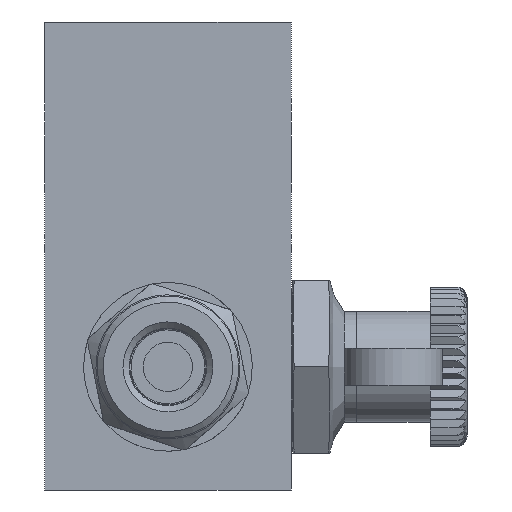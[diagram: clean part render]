
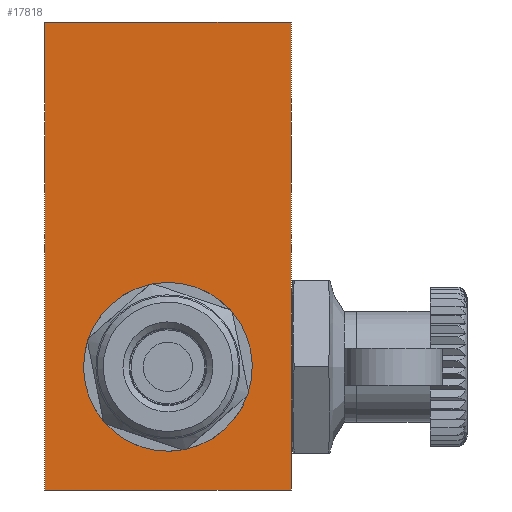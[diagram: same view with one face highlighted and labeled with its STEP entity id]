
A CAD part, front view. The second image highlights one B-rep face of the part: STEP entity #17818.
In plain terms, the highlighted planar face has unit normal (0, -1, 0).
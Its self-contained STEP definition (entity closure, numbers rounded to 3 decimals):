
#126 = B_SPLINE_CURVE_WITH_KNOTS ( 'NONE', 3,
 ( #16371, #21522, #16475, #9838, #11198, #18371, #9393, #18047, #6151, #13014, #2663, #4463 ),
 .UNSPECIFIED., .F., .F.,
 ( 4, 2, 2, 2, 2, 4 ),
 ( 0., 0.002, 0.003, 0.004, 0.006, 0.008 ),
 .UNSPECIFIED. ) ;
#374 = CARTESIAN_POINT ( 'NONE',  ( 5.573, 0., -11.365 ) ) ;
#565 = EDGE_CURVE ( 'NONE', #6112, #13206, #10910, .T. ) ;
#820 = VERTEX_POINT ( 'NONE', #2497 ) ;
#1317 = EDGE_LOOP ( 'NONE', ( #7839, #14884, #8032, #6328 ) ) ;
#1458 = EDGE_LOOP ( 'NONE', ( #16332, #17870, #13318, #9799 ) ) ;
#1677 = CARTESIAN_POINT ( 'NONE',  ( 10., 0., -9. ) ) ;
#1744 = EDGE_CURVE ( 'NONE', #13206, #15249, #15839, .T. ) ;
#2297 = CARTESIAN_POINT ( 'NONE',  ( 5.709, 0., -11.567 ) ) ;
#2497 = CARTESIAN_POINT ( 'NONE',  ( 0., 0., -19. ) ) ;
#2663 = CARTESIAN_POINT ( 'NONE',  ( 7.459, 0., -4.596 ) ) ;
#3714 = AXIS2_PLACEMENT_3D ( 'NONE', #1677, #8519, #20315 ) ;
#4373 = FACE_OUTER_BOUND ( 'NONE', #1458, .T. ) ;
#4463 = CARTESIAN_POINT ( 'NONE',  ( 8.071, 0., -4.342 ) ) ;
#4797 = CARTESIAN_POINT ( 'NONE',  ( 8.304, 0., -4.261 ) ) ;
#5219 = B_SPLINE_CURVE_WITH_KNOTS ( 'NONE', 3,
 ( #18818, #4797, #8161, #16914 ),
 .UNSPECIFIED., .F., .F.,
 ( 4, 4 ),
 ( 0., 0.001 ),
 .UNSPECIFIED. ) ;
#5285 = VERTEX_POINT ( 'NONE', #20772 ) ;
#6112 = VERTEX_POINT ( 'NONE', #7795 ) ;
#6151 = CARTESIAN_POINT ( 'NONE',  ( 5.967, 0., -5.905 ) ) ;
#6182 = EDGE_CURVE ( 'NONE', #5285, #17744, #16775, .T. ) ;
#6328 = ORIENTED_EDGE ( 'NONE', *, *, #1744, .T. ) ;
#7207 = CARTESIAN_POINT ( 'NONE',  ( 5.449, 0., -11.151 ) ) ;
#7208 = AXIS2_PLACEMENT_3D ( 'NONE', #13037, #14839, #11224 ) ;
#7795 = CARTESIAN_POINT ( 'NONE',  ( 8.781, 0., -4.151 ) ) ;
#7839 = ORIENTED_EDGE ( 'NONE', *, *, #20442, .T. ) ;
#8032 = ORIENTED_EDGE ( 'NONE', *, *, #565, .T. ) ;
#8161 = CARTESIAN_POINT ( 'NONE',  ( 8.541, 0., -4.197 ) ) ;
#8519 = DIRECTION ( 'NONE',  ( 0., 1., 0. ) ) ;
#8603 = VERTEX_POINT ( 'NONE', #17598 ) ;
#9062 = EDGE_CURVE ( 'NONE', #8603, #6112, #5219, .T. ) ;
#9393 = CARTESIAN_POINT ( 'NONE',  ( 5.214, 0., -7.382 ) ) ;
#9579 = CARTESIAN_POINT ( 'NONE',  ( 20., 0., 19. ) ) ;
#9632 = PLANE ( 'NONE',  #7208 ) ;
#9783 = LINE ( 'NONE', #21915, #19463 ) ;
#9799 = ORIENTED_EDGE ( 'NONE', *, *, #17861, .T. ) ;
#9838 = CARTESIAN_POINT ( 'NONE',  ( 4.959, 0., -8.666 ) ) ;
#10563 = CARTESIAN_POINT ( 'NONE',  ( 5.342, 0., -10.929 ) ) ;
#10694 = VERTEX_POINT ( 'NONE', #17263 ) ;
#10910 = CIRCLE ( 'NONE', #3714, 5. ) ;
#11198 = CARTESIAN_POINT ( 'NONE',  ( 4.992, 0., -8.337 ) ) ;
#11224 = DIRECTION ( 'NONE',  ( -1., 0., 0. ) ) ;
#11286 = DIRECTION ( 'NONE',  ( 0., 0., -1. ) ) ;
#11710 = EDGE_CURVE ( 'NONE', #10694, #5285, #21858, .T. ) ;
#12127 = VECTOR ( 'NONE', #11286, 1000. ) ;
#12602 = VECTOR ( 'NONE', #20284, 1000. ) ;
#12603 = VECTOR ( 'NONE', #21440, 1000. ) ;
#13014 = CARTESIAN_POINT ( 'NONE',  ( 6.899, 0., -4.971 ) ) ;
#13037 = CARTESIAN_POINT ( 'NONE',  ( 20., 0., 19. ) ) ;
#13206 = VERTEX_POINT ( 'NONE', #2297 ) ;
#13318 = ORIENTED_EDGE ( 'NONE', *, *, #11710, .F. ) ;
#14089 = CARTESIAN_POINT ( 'NONE',  ( 5.342, 0., -10.929 ) ) ;
#14839 = DIRECTION ( 'NONE',  ( 0., 1., 0. ) ) ;
#14884 = ORIENTED_EDGE ( 'NONE', *, *, #9062, .T. ) ;
#15138 = CARTESIAN_POINT ( 'NONE',  ( 20., 0., 19. ) ) ;
#15249 = VERTEX_POINT ( 'NONE', #10563 ) ;
#15487 = EDGE_CURVE ( 'NONE', #820, #17744, #9783, .T. ) ;
#15839 = B_SPLINE_CURVE_WITH_KNOTS ( 'NONE', 3,
 ( #19116, #374, #7207, #14089 ),
 .UNSPECIFIED., .F., .F.,
 ( 4, 4 ),
 ( 0.009, 0.009 ),
 .UNSPECIFIED. ) ;
#16332 = ORIENTED_EDGE ( 'NONE', *, *, #15487, .T. ) ;
#16371 = CARTESIAN_POINT ( 'NONE',  ( 5.342, 0., -10.929 ) ) ;
#16475 = CARTESIAN_POINT ( 'NONE',  ( 4.958, 0., -9.657 ) ) ;
#16497 = LINE ( 'NONE', #19869, #12603 ) ;
#16775 = LINE ( 'NONE', #9579, #12127 ) ;
#16914 = CARTESIAN_POINT ( 'NONE',  ( 8.781, 0., -4.151 ) ) ;
#17263 = CARTESIAN_POINT ( 'NONE',  ( 0., 0., 19. ) ) ;
#17598 = CARTESIAN_POINT ( 'NONE',  ( 8.071, 0., -4.342 ) ) ;
#17744 = VERTEX_POINT ( 'NONE', #21655 ) ;
#17818 = ADVANCED_FACE ( 'NONE', ( #21544, #4373 ), #9632, .F. ) ;
#17861 = EDGE_CURVE ( 'NONE', #10694, #820, #16497, .T. ) ;
#17870 = ORIENTED_EDGE ( 'NONE', *, *, #6182, .F. ) ;
#18047 = CARTESIAN_POINT ( 'NONE',  ( 5.593, 0., -6.465 ) ) ;
#18205 = DIRECTION ( 'NONE',  ( 1., 0., 0. ) ) ;
#18371 = CARTESIAN_POINT ( 'NONE',  ( 5.119, 0., -7.697 ) ) ;
#18818 = CARTESIAN_POINT ( 'NONE',  ( 8.071, 0., -4.342 ) ) ;
#19116 = CARTESIAN_POINT ( 'NONE',  ( 5.709, 0., -11.567 ) ) ;
#19463 = VECTOR ( 'NONE', #18205, 1000. ) ;
#19869 = CARTESIAN_POINT ( 'NONE',  ( 0., 0., 19. ) ) ;
#20284 = DIRECTION ( 'NONE',  ( 1., 0., 0. ) ) ;
#20315 = DIRECTION ( 'NONE',  ( -1., 0., 0. ) ) ;
#20442 = EDGE_CURVE ( 'NONE', #15249, #8603, #126, .T. ) ;
#20772 = CARTESIAN_POINT ( 'NONE',  ( 20., 0., 19. ) ) ;
#21440 = DIRECTION ( 'NONE',  ( 0., 0., -1. ) ) ;
#21522 = CARTESIAN_POINT ( 'NONE',  ( 5.089, 0., -10.317 ) ) ;
#21544 = FACE_BOUND ( 'NONE', #1317, .T. ) ;
#21655 = CARTESIAN_POINT ( 'NONE',  ( 20., 0., -19. ) ) ;
#21858 = LINE ( 'NONE', #15138, #12602 ) ;
#21915 = CARTESIAN_POINT ( 'NONE',  ( 20., 0., -19. ) ) ;
